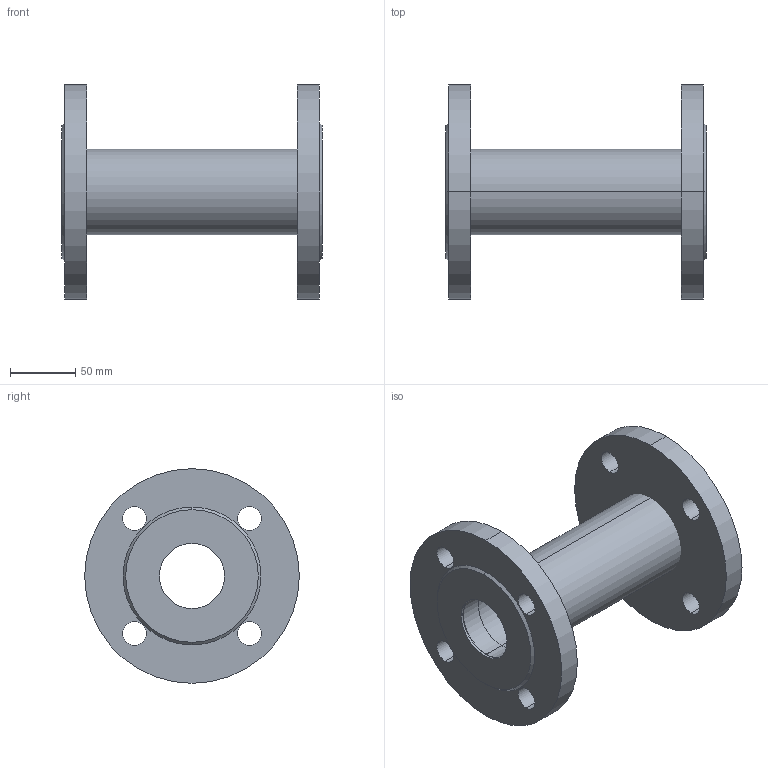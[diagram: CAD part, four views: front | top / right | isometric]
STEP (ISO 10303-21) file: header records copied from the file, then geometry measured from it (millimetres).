
FILE_DESCRIPTION(('STEP AP214'),'1');
FILE_NAME('U:/VDI-Daten/8500/8500_PN16_L200_DN50.STP','2012-06-12T14:02:57',(' '),(' '),'Spatial InterOp 3D',' ',' ');
FILE_SCHEMA(('automotive_design'));
Length unit declared in the file: millimetre
Products named in the file (5): 3D-Objekt
Bounding box: 200 x 165 x 165 mm (x, y, z)
Volume: 936018.2 mm3; surface area: 206852.9 mm2
Topology: 5 solids, 5 shells, 46 faces, 108 edges, 72 vertices
Faces by surface type: cylinder 32, plane 10, cone 4
Entity records: 1901 total; most frequent: DIRECTION 282, CARTESIAN_POINT 231, ORIENTED_EDGE 216, AXIS2_PLACEMENT_3D 123, EDGE_CURVE 108, EDGE_LOOP 72, VERTEX_POINT 72, CIRCLE 72
